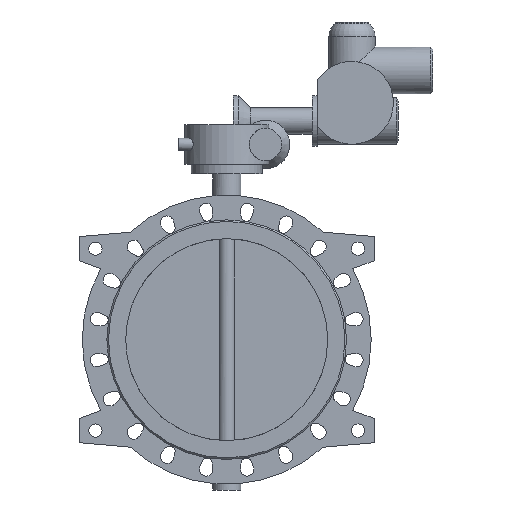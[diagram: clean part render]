
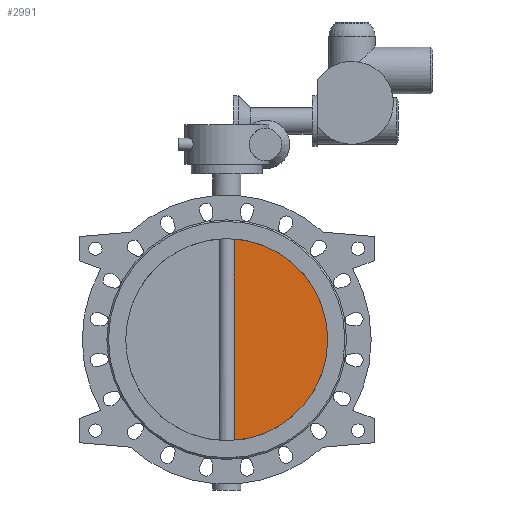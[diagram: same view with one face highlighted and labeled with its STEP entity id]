
A CAD part, front view. The second image highlights one B-rep face of the part: STEP entity #2991.
In plain terms, the highlighted planar face has unit normal (0, -1, 0).
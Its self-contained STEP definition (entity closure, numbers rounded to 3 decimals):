
#2991=ADVANCED_FACE('',(#5722),#5724,.T.);
#5722=FACE_BOUND('',#5723,.T.);
#5723=EDGE_LOOP('',(#7362,#7363));
#5724=PLANE('',#5725);
#5725=AXIS2_PLACEMENT_3D('',#5726,#5727,#5728);
#5726=CARTESIAN_POINT('',(0.,-7.5,0.));
#5727=DIRECTION('',(0.,-1.,0.));
#5728=DIRECTION('',(1.,0.,0.));
#7362=ORIENTED_EDGE('',*,*,#8174,.T.);
#7363=ORIENTED_EDGE('',*,*,#8184,.T.);
#8174=EDGE_CURVE('',#9547,#9548,#9549,.F.);
#8184=EDGE_CURVE('',#9548,#9547,#9567,.T.);
#9547=VERTEX_POINT('',#14912);
#9548=VERTEX_POINT('',#14913);
#9549=CIRCLE('',#14914,250.);
#9567=LINE('',#15342,#15343);
#14912=CARTESIAN_POINT('',(18.54,-7.5,-249.312));
#14913=CARTESIAN_POINT('',(18.54,-7.5,249.312));
#14914=AXIS2_PLACEMENT_3D('',#14915,#14916,#14917);
#14915=CARTESIAN_POINT('',(0.,-7.5,0.));
#14916=DIRECTION('',(0.,1.,0.));
#14917=DIRECTION('',(0.074,0.,0.997));
#15342=CARTESIAN_POINT('',(18.54,-7.5,249.312));
#15343=VECTOR('',#15344,1.);
#15344=DIRECTION('',(0.,0.,-1.));
